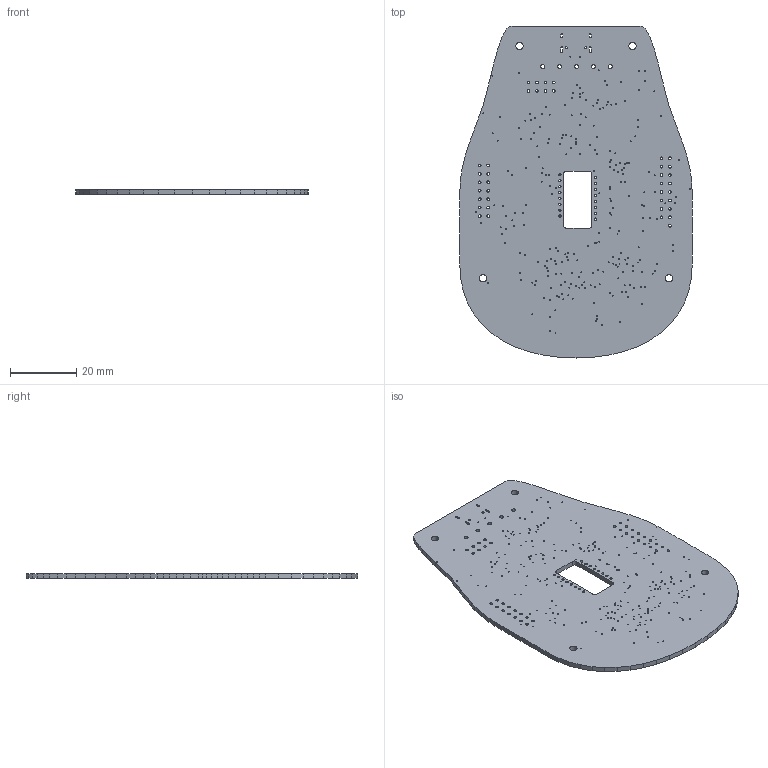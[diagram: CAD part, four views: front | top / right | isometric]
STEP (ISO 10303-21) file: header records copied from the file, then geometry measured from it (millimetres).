
FILE_DESCRIPTION(('KiCad electronic assembly'),'2;1');
FILE_NAME('Lower-bare.step','2026-11-04T22:58:50',('Pcbnew'),('Kicad'), 'Open CASCADE STEP processor 7.9','KiCad to STEP converter','Unknown' );
FILE_SCHEMA(('AUTOMOTIVE_DESIGN { 1 0 10303 214 1 1 1 1 }'));
Length unit declared in the file: millimetre
Products named in the file (2): Lower-bare 1; Lower_PCB
Assembly tree (1 placements, depth 2):
  Lower-bare 1
    Lower_PCB
Bounding box: 70 x 100 x 1.49 mm (x, y, z)
Volume: 8594.2 mm3; surface area: 12709.6 mm2
Topology: 1 solids, 1 shells, 444 faces, 1326 edges, 884 vertices
Faces by surface type: cylinder 333, plane 111
Full cylindrical faces by diameter (mm): 0.3 x255, 0.65 x2, 0.7 x16, 0.8 x39, 1.2 x5, 2.2 x4
Entity records: 16617 total; most frequent: DIRECTION 2884, CARTESIAN_POINT 2656, ORIENTED_EDGE 2652, EDGE_CURVE 1326, AXIS2_PLACEMENT_3D 1112, FACE_BOUND 1096, EDGE_LOOP 1096, VERTEX_POINT 884
